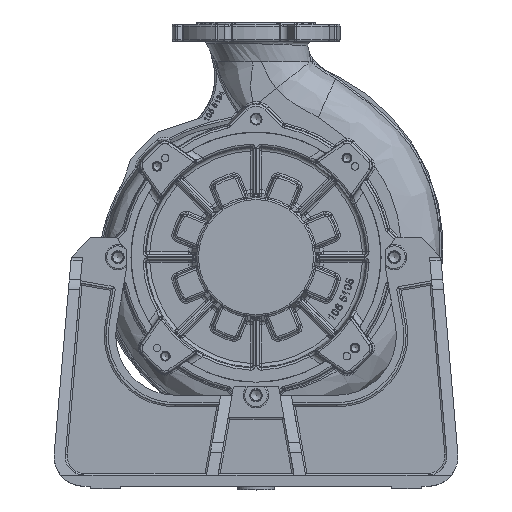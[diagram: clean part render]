
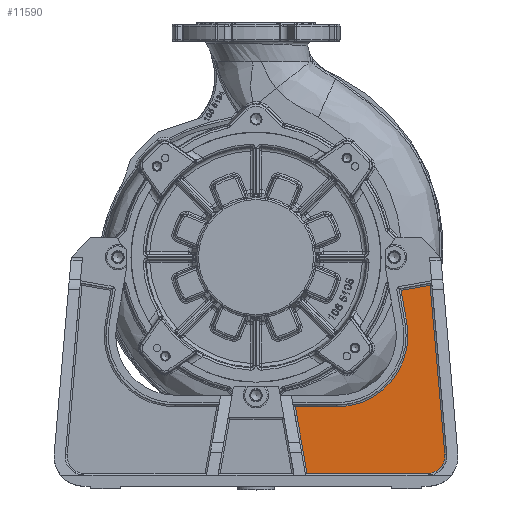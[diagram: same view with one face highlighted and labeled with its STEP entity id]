
A CAD part, top view. The second image highlights one B-rep face of the part: STEP entity #11590.
In plain terms, the highlighted planar face has unit normal (0, 0, 1).
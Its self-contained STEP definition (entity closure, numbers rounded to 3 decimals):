
#2652 = LINE ( 'NONE', #102942, #125020 ) ;
#3605 = DIRECTION ( 'NONE',  ( 1., 0., 0. ) ) ;
#7303 = CARTESIAN_POINT ( 'NONE',  ( 108., 202., 12. ) ) ;
#7671 = AXIS2_PLACEMENT_3D ( 'NONE', #114804, #55866, #138586 ) ;
#8630 = PLANE ( 'NONE',  #7671 ) ;
#8860 = ORIENTED_EDGE ( 'NONE', *, *, #132896, .T. ) ;
#11232 = CARTESIAN_POINT ( 'NONE',  ( 52.619, 106.5, 12. ) ) ;
#11590 = ADVANCED_FACE ( 'NONE', ( #78508 ), #8630, .T. ) ;
#12414 = LINE ( 'NONE', #68541, #103271 ) ;
#22615 = LINE ( 'NONE', #119560, #139210 ) ;
#25022 = CARTESIAN_POINT ( 'NONE',  ( 252.916, 41.944, 12. ) ) ;
#27223 = CARTESIAN_POINT ( 'NONE',  ( 68.312, 17.5, 12. ) ) ;
#32249 = CARTESIAN_POINT ( 'NONE',  ( 55.454, 90.421, 12. ) ) ;
#34847 = CARTESIAN_POINT ( 'NONE',  ( 230.5, 17.5, 12. ) ) ;
#38647 = VERTEX_POINT ( 'NONE', #25022 ) ;
#38950 = VECTOR ( 'NONE', #79430, 1000. ) ;
#39781 = EDGE_LOOP ( 'NONE', ( #69975, #125956, #141512, #8860, #88439, #92667, #53709, #98624 ) ) ;
#46526 = EDGE_CURVE ( 'NONE', #123567, #123850, #2652, .T. ) ;
#46714 = EDGE_CURVE ( 'NONE', #123850, #38647, #60274, .T. ) ;
#47813 = CIRCLE ( 'NONE', #71331, 95.5 ) ;
#48776 = DIRECTION ( 'NONE',  ( -0.086, 0.996, 0. ) ) ;
#52898 = VECTOR ( 'NONE', #116070, 1000. ) ;
#53319 = CARTESIAN_POINT ( 'NONE',  ( 233.195, 269.397, 12. ) ) ;
#53709 = ORIENTED_EDGE ( 'NONE', *, *, #115725, .T. ) ;
#55866 = DIRECTION ( 'NONE',  ( 0., 0., 1. ) ) ;
#59979 = VECTOR ( 'NONE', #122837, 1000. ) ;
#60274 = CIRCLE ( 'NONE', #72090, 22.5 ) ;
#60963 = EDGE_CURVE ( 'NONE', #122934, #61488, #128303, .T. ) ;
#61488 = VERTEX_POINT ( 'NONE', #72976 ) ;
#68303 = DIRECTION ( 'NONE',  ( 1., 0., 0. ) ) ;
#68487 = DIRECTION ( 'NONE',  ( 1., 0., 0. ) ) ;
#68541 = CARTESIAN_POINT ( 'NONE',  ( -230.5, 106.5, 12. ) ) ;
#69975 = ORIENTED_EDGE ( 'NONE', *, *, #60963, .T. ) ;
#70195 = EDGE_CURVE ( 'NONE', #116118, #136216, #12414, .T. ) ;
#71331 = AXIS2_PLACEMENT_3D ( 'NONE', #7303, #139276, #68487 ) ;
#72090 = AXIS2_PLACEMENT_3D ( 'NONE', #146517, #145508, #3605 ) ;
#72976 = CARTESIAN_POINT ( 'NONE',  ( 202.049, 218.583, 12. ) ) ;
#78508 = FACE_OUTER_BOUND ( 'NONE', #39781, .T. ) ;
#79430 = DIRECTION ( 'NONE',  ( 0.174, -0.985, 0. ) ) ;
#84637 = EDGE_CURVE ( 'NONE', #137967, #122934, #102763, .T. ) ;
#88439 = ORIENTED_EDGE ( 'NONE', *, *, #46526, .T. ) ;
#90759 = DIRECTION ( 'NONE',  ( -1., 0., 0. ) ) ;
#92667 = ORIENTED_EDGE ( 'NONE', *, *, #46714, .T. ) ;
#92803 = CARTESIAN_POINT ( 'NONE',  ( -255.747, 183.183, 12. ) ) ;
#98624 = ORIENTED_EDGE ( 'NONE', *, *, #84637, .T. ) ;
#102763 = LINE ( 'NONE', #92803, #52898 ) ;
#102942 = CARTESIAN_POINT ( 'NONE',  ( -230.5, 17.5, 12. ) ) ;
#103271 = VECTOR ( 'NONE', #90759, 1000. ) ;
#114804 = CARTESIAN_POINT ( 'NONE',  ( -230.5, 40., 12. ) ) ;
#115427 = CARTESIAN_POINT ( 'NONE',  ( 194.299, 262.539, 12. ) ) ;
#115725 = EDGE_CURVE ( 'NONE', #38647, #137967, #22615, .T. ) ;
#116070 = DIRECTION ( 'NONE',  ( -0.985, -0.174, 0. ) ) ;
#116118 = VERTEX_POINT ( 'NONE', #141159 ) ;
#119560 = CARTESIAN_POINT ( 'NONE',  ( 249.476, 81.616, 12. ) ) ;
#122837 = DIRECTION ( 'NONE',  ( 0.174, -0.985, 0. ) ) ;
#122934 = VERTEX_POINT ( 'NONE', #115427 ) ;
#123377 = CARTESIAN_POINT ( 'NONE',  ( 219.546, 119.355, 12. ) ) ;
#123567 = VERTEX_POINT ( 'NONE', #27223 ) ;
#123850 = VERTEX_POINT ( 'NONE', #34847 ) ;
#125020 = VECTOR ( 'NONE', #68303, 1000. ) ;
#125956 = ORIENTED_EDGE ( 'NONE', *, *, #135607, .T. ) ;
#125985 = LINE ( 'NONE', #32249, #38950 ) ;
#128303 = LINE ( 'NONE', #123377, #59979 ) ;
#132896 = EDGE_CURVE ( 'NONE', #136216, #123567, #125985, .T. ) ;
#135607 = EDGE_CURVE ( 'NONE', #61488, #116118, #47813, .T. ) ;
#136216 = VERTEX_POINT ( 'NONE', #11232 ) ;
#137967 = VERTEX_POINT ( 'NONE', #53319 ) ;
#138586 = DIRECTION ( 'NONE',  ( 1., 0., 0. ) ) ;
#139210 = VECTOR ( 'NONE', #48776, 1000. ) ;
#139276 = DIRECTION ( 'NONE',  ( 0., 0., -1. ) ) ;
#141159 = CARTESIAN_POINT ( 'NONE',  ( 108., 106.5, 12. ) ) ;
#141512 = ORIENTED_EDGE ( 'NONE', *, *, #70195, .T. ) ;
#145508 = DIRECTION ( 'NONE',  ( 0., 0., 1. ) ) ;
#146517 = CARTESIAN_POINT ( 'NONE',  ( 230.5, 40., 12. ) ) ;
